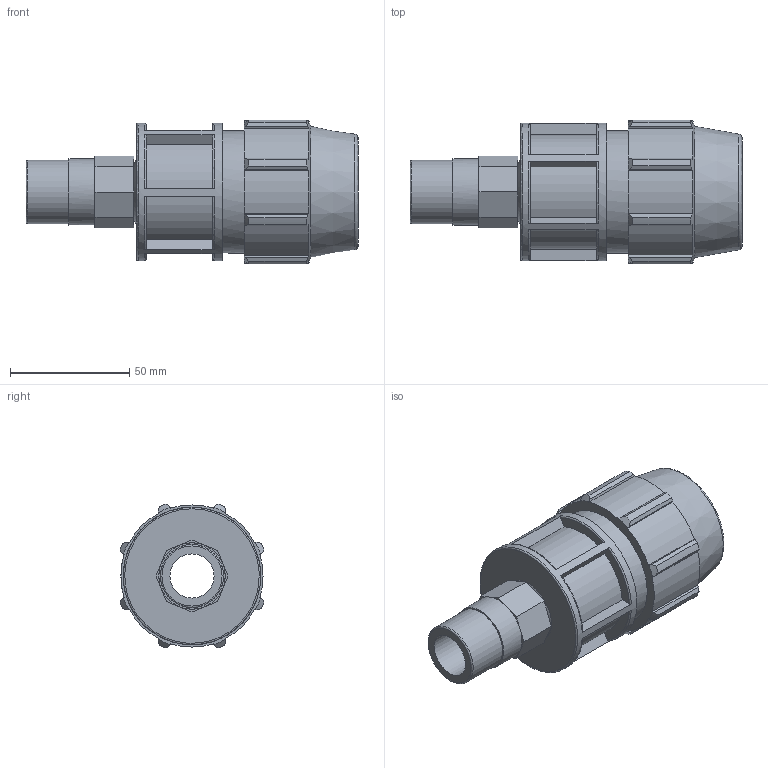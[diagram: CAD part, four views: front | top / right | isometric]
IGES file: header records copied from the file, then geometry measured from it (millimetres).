
Global section: file name: 077200032007__0772060320070A.ipt; native system: Autodesk Inventor 2015; preprocessor: unknown; author: KIM; date: 20170606.174224; units: millimetre
Bounding box: 139 x 60.22 x 60.22 mm (x, y, z)
Volume: 155174 mm3; surface area: 41130.5 mm2
Topology: 1 solids, 1 shells, 137 faces, 367 edges, 244 vertices
Faces by surface type: plane 81, cylinder 26, revolution 19, cone 11
Full cylindrical faces by diameter (mm): 26.441 x1, 27.763 x1, 51.2 x1, 57.6 x1
